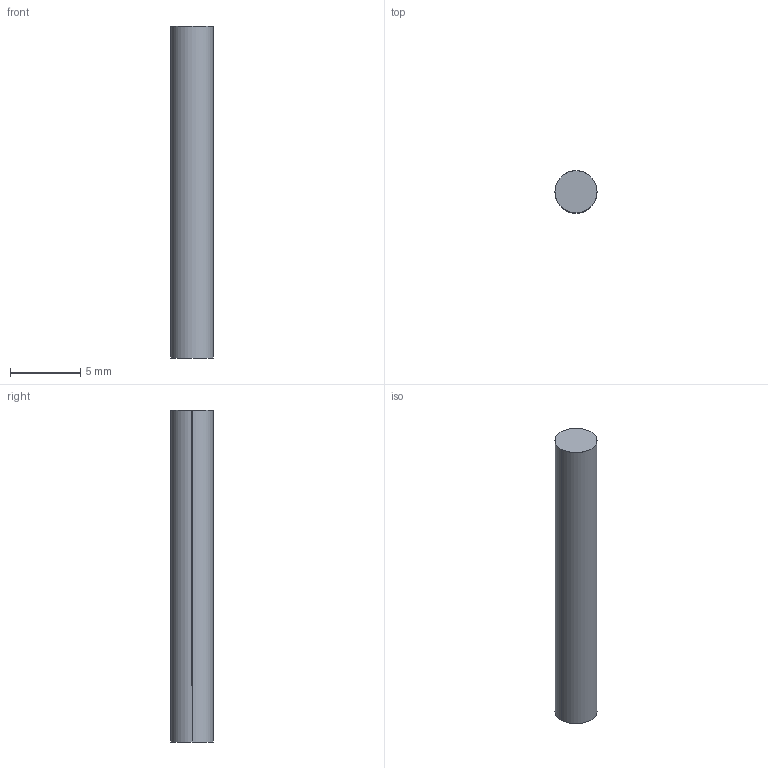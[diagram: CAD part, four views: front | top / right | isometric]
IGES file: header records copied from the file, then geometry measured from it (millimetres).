
Start section: SolidWorks IGES FILE using analytic representation for surfaces
Global section: file name: C:\Documents and Settings\brechard\Bureau\GE 67\62.040.010.IGS; native system: SolidWorks 2001Plus by SolidWorks Corporation; preprocessor: Version 5.3; author: brechard; date: 050126.103521; units: millimetre
Bounding box: 3 x 3 x 23.7 mm (x, y, z)
Surface area: 237.5 mm2 (no closed solid volume)
Topology: 0 solids, 0 shells, 4 faces, 72 edges, 72 vertices
Faces by surface type: revolution 2, bspline 2
